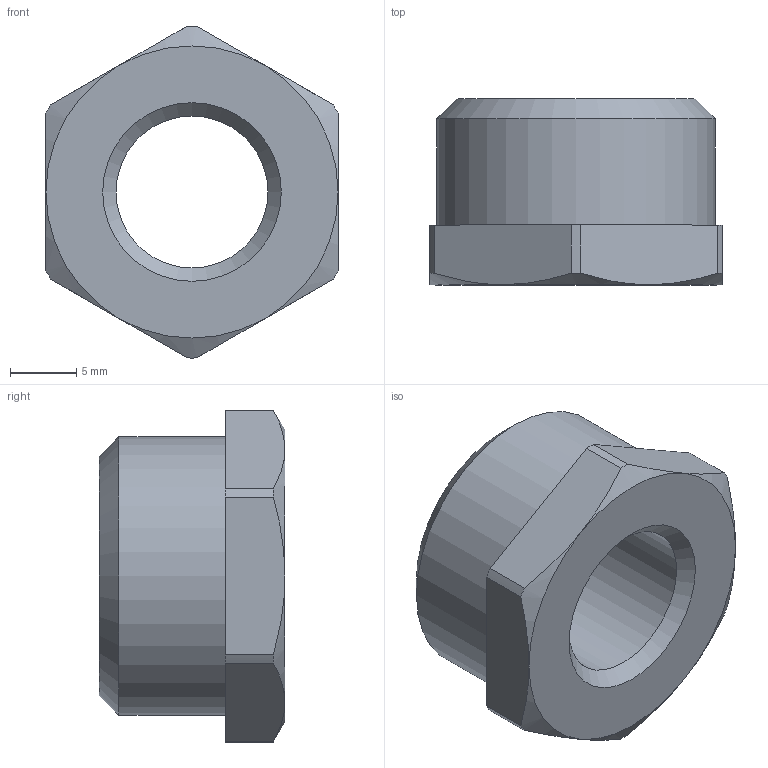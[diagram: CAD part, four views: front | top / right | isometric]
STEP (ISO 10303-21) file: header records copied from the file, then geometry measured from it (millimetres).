
FILE_DESCRIPTION(('STEP AP203'), '1');
FILE_NAME('ÂÐ.753128.027 - VTr.581.N.0402 Ôèò. ðåçüá', '2024-07-04T07:50:05', ('Boss'), (''), 'C3D Converter', 'C3D Toolkit', '');
FILE_SCHEMA(('CONFIG_CONTROL_DESIGN'));
Length unit declared in the file: millimetre
Products named in the file (1): ВР.753128.027
Bounding box: 22 x 14 x 25 mm (x, y, z)
Volume: 3600.6 mm3; surface area: 1981.3 mm2
Topology: 1 solids, 1 shells, 26 faces, 60 edges, 37 vertices
Faces by surface type: plane 9, cone 9, cylinder 8
Full cylindrical faces by diameter (mm): 11.445 x1, 20.955 x1
Entity records: 1027 total; most frequent: CARTESIAN_POINT 423, DIRECTION 122, ORIENTED_EDGE 110, EDGE_CURVE 55, AXIS2_PLACEMENT_3D 52, VERTEX_POINT 37, EDGE_LOOP 34, ADVANCED_FACE 26
